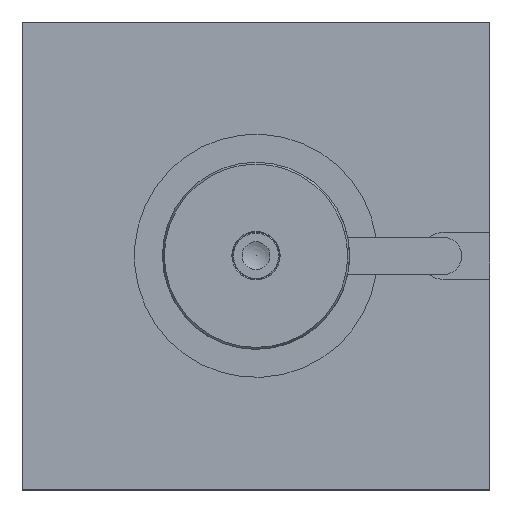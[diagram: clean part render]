
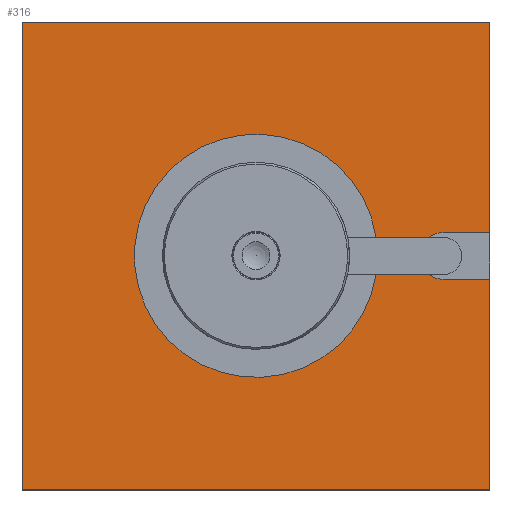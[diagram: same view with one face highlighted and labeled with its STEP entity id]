
A CAD part, top view. The second image highlights one B-rep face of the part: STEP entity #316.
In plain terms, the highlighted planar face has unit normal (0, 0, 1).
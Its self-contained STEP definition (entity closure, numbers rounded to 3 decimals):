
#316 = ADVANCED_FACE( '', ( #678 ), #679, .T. );
#678 = FACE_OUTER_BOUND( '', #1132, .T. );
#679 = PLANE( '', #1133 );
#1132 = EDGE_LOOP( '', ( #1732, #1733, #1734, #1735, #1736, #1737, #1738, #1739, #1740, #1741, #1742, #1743 ) );
#1133 = AXIS2_PLACEMENT_3D( '', #1744, #1745, #1746 );
#1732 = ORIENTED_EDGE( '', *, *, #2062, .F. );
#1733 = ORIENTED_EDGE( '', *, *, #2054, .F. );
#1734 = ORIENTED_EDGE( '', *, *, #1945, .F. );
#1735 = ORIENTED_EDGE( '', *, *, #2065, .F. );
#1736 = ORIENTED_EDGE( '', *, *, #1923, .T. );
#1737 = ORIENTED_EDGE( '', *, *, #1900, .T. );
#1738 = ORIENTED_EDGE( '', *, *, #1934, .T. );
#1739 = ORIENTED_EDGE( '', *, *, #1892, .T. );
#1740 = ORIENTED_EDGE( '', *, *, #1926, .T. );
#1741 = ORIENTED_EDGE( '', *, *, #1920, .F. );
#1742 = ORIENTED_EDGE( '', *, *, #1887, .F. );
#1743 = ORIENTED_EDGE( '', *, *, #1996, .F. );
#1744 = CARTESIAN_POINT( '', ( -125., -125., 0. ) );
#1745 = DIRECTION( '', ( 0., 0., 1. ) );
#1746 = DIRECTION( '', ( 0., -1., 0. ) );
#1887 = EDGE_CURVE( '', #2149, #2150, #2151, .T. );
#1892 = EDGE_CURVE( '', #2158, #2159, #2160, .T. );
#1900 = EDGE_CURVE( '', #2172, #2173, #2174, .T. );
#1920 = EDGE_CURVE( '', #2150, #2206, #2207, .T. );
#1923 = EDGE_CURVE( '', #2210, #2172, #2211, .T. );
#1926 = EDGE_CURVE( '', #2159, #2206, #2215, .T. );
#1934 = EDGE_CURVE( '', #2173, #2158, #2225, .T. );
#1945 = EDGE_CURVE( '', #2242, #2244, #2245, .T. );
#1996 = EDGE_CURVE( '', #2322, #2149, #2324, .T. );
#2054 = EDGE_CURVE( '', #2244, #2400, #2401, .T. );
#2062 = EDGE_CURVE( '', #2400, #2322, #2412, .T. );
#2065 = EDGE_CURVE( '', #2210, #2242, #2415, .T. );
#2149 = VERTEX_POINT( '', #2504 );
#2150 = VERTEX_POINT( '', #2505 );
#2151 = CIRCLE( '', #2506, 12.5 );
#2158 = VERTEX_POINT( '', #2515 );
#2159 = VERTEX_POINT( '', #2516 );
#2160 = LINE( '', #2517, #2518 );
#2172 = VERTEX_POINT( '', #2533 );
#2173 = VERTEX_POINT( '', #2534 );
#2174 = LINE( '', #2535, #2536 );
#2206 = VERTEX_POINT( '', #2578 );
#2207 = LINE( '', #2579, #2580 );
#2210 = VERTEX_POINT( '', #2584 );
#2211 = LINE( '', #2585, #2586 );
#2215 = LINE( '', #2592, #2593 );
#2225 = LINE( '', #2604, #2605 );
#2242 = VERTEX_POINT( '', #2628 );
#2244 = VERTEX_POINT( '', #2631 );
#2245 = CIRCLE( '', #2632, 12.5 );
#2322 = VERTEX_POINT( '', #2714 );
#2324 = LINE( '', #2717, #2718 );
#2400 = VERTEX_POINT( '', #2805 );
#2401 = LINE( '', #2806, #2807 );
#2412 = CIRCLE( '', #2819, 65. );
#2415 = LINE( '', #2822, #2823 );
#2504 = CARTESIAN_POINT( '', ( 92.5, -10., 0. ) );
#2505 = CARTESIAN_POINT( '', ( 100., -12.5, 0. ) );
#2506 = AXIS2_PLACEMENT_3D( '', #2914, #2915, #2916 );
#2515 = CARTESIAN_POINT( '', ( -125., -125., 0. ) );
#2516 = CARTESIAN_POINT( '', ( 125., -125., 0. ) );
#2517 = CARTESIAN_POINT( '', ( -125., -125., 0. ) );
#2518 = VECTOR( '', #2922, 1000. );
#2533 = CARTESIAN_POINT( '', ( 125., 125., 0. ) );
#2534 = CARTESIAN_POINT( '', ( -125., 125., 0. ) );
#2535 = CARTESIAN_POINT( '', ( 125., 125., 0. ) );
#2536 = VECTOR( '', #2932, 1000. );
#2578 = CARTESIAN_POINT( '', ( 125., -12.5, 0. ) );
#2579 = CARTESIAN_POINT( '', ( 100., -12.5, 0. ) );
#2580 = VECTOR( '', #2958, 1000. );
#2584 = CARTESIAN_POINT( '', ( 125., 12.5, 0. ) );
#2585 = CARTESIAN_POINT( '', ( 125., -125., 0. ) );
#2586 = VECTOR( '', #2960, 1000. );
#2592 = CARTESIAN_POINT( '', ( 125., -125., 0. ) );
#2593 = VECTOR( '', #2963, 1000. );
#2604 = CARTESIAN_POINT( '', ( -125., 125., 0. ) );
#2605 = VECTOR( '', #2971, 1000. );
#2628 = CARTESIAN_POINT( '', ( 100., 12.5, 0. ) );
#2631 = CARTESIAN_POINT( '', ( 92.5, 10., 0. ) );
#2632 = AXIS2_PLACEMENT_3D( '', #2982, #2983, #2984 );
#2714 = CARTESIAN_POINT( '', ( 64.226, -10., 0. ) );
#2717 = CARTESIAN_POINT( '', ( 0., -10., 0. ) );
#2718 = VECTOR( '', #3066, 1000. );
#2805 = CARTESIAN_POINT( '', ( 64.226, 10., 0. ) );
#2806 = CARTESIAN_POINT( '', ( 100., 10., 0. ) );
#2807 = VECTOR( '', #3135, 1000. );
#2819 = AXIS2_PLACEMENT_3D( '', #3146, #3147, #3148 );
#2822 = CARTESIAN_POINT( '', ( 148.185, 12.5, 0. ) );
#2823 = VECTOR( '', #3149, 1000. );
#2914 = CARTESIAN_POINT( '', ( 100., 0., 0. ) );
#2915 = DIRECTION( '', ( 0., 0., 1. ) );
#2916 = DIRECTION( '', ( 0., 1., 0. ) );
#2922 = DIRECTION( '', ( 1., 0., 0. ) );
#2932 = DIRECTION( '', ( -1., 0., 0. ) );
#2958 = DIRECTION( '', ( 1., 0., 0. ) );
#2960 = DIRECTION( '', ( 0., 1., 0. ) );
#2963 = DIRECTION( '', ( 0., 1., 0. ) );
#2971 = DIRECTION( '', ( 0., -1., 0. ) );
#2982 = CARTESIAN_POINT( '', ( 100., 0., 0. ) );
#2983 = DIRECTION( '', ( 0., 0., 1. ) );
#2984 = DIRECTION( '', ( 0., 1., 0. ) );
#3066 = DIRECTION( '', ( 1., 0., 0. ) );
#3135 = DIRECTION( '', ( -1., 0., 0. ) );
#3146 = CARTESIAN_POINT( '', ( 0., 0., 0. ) );
#3147 = DIRECTION( '', ( 0., 0., 1. ) );
#3148 = DIRECTION( '', ( 1., 0., 0. ) );
#3149 = DIRECTION( '', ( -1., 0., 0. ) );
